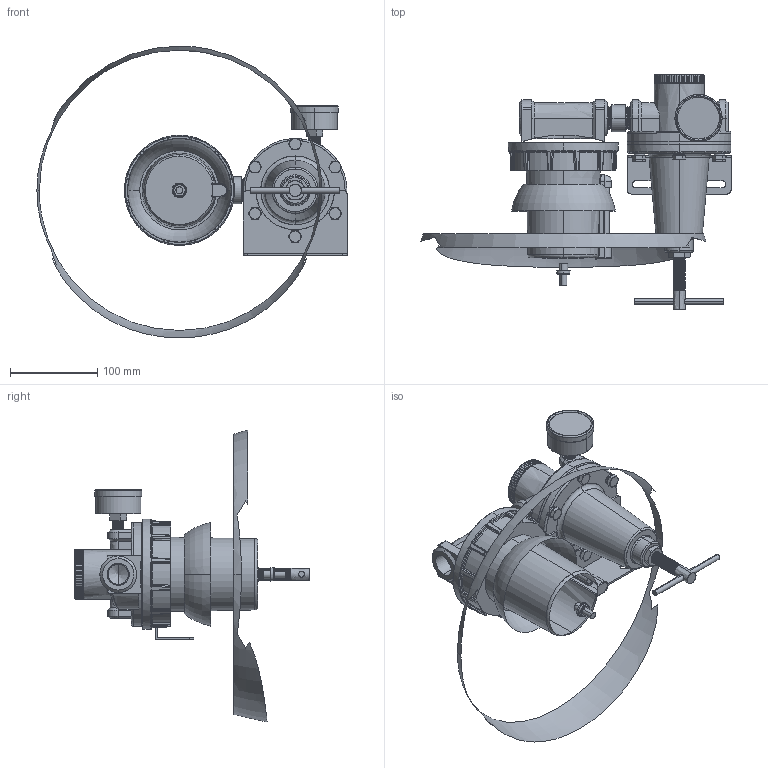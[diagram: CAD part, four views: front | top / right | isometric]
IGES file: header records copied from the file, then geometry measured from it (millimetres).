
Start section: SolidWorks IGES file using analytic representation for surfaces
Global section: file name: D:\Custom\3D繪製\FRL\FR系列\U628#W-06#YB#.IGS; native system: SolidWorks 2014; preprocessor: SolidWorks 2014; author: Chieh_Lu; date: 160115.012630; units: millimetre
Bounding box: 355.23 x 269 x 334.27 mm (x, y, z)
Surface area: 295235.6 mm2 (no closed solid volume)
Topology: 0 solids, 0 shells, 1216 faces, 14668 edges, 14642 vertices
Faces by surface type: revolution 627, bspline 589
